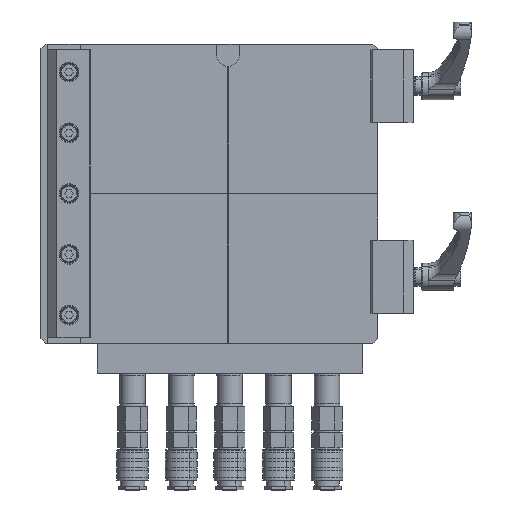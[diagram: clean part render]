
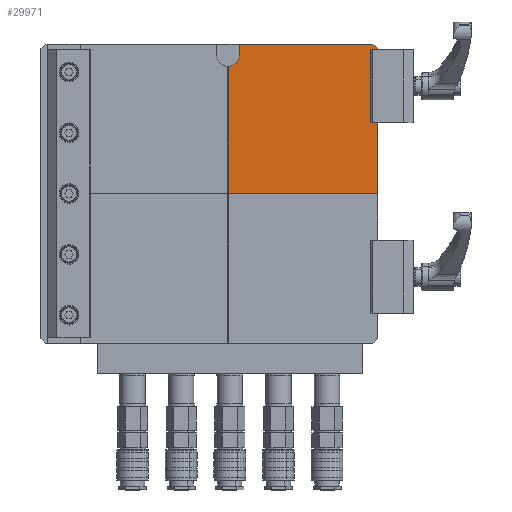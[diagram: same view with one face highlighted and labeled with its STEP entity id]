
A CAD part, top view. The second image highlights one B-rep face of the part: STEP entity #29971.
In plain terms, the highlighted planar face has unit normal (0, 0, 1).
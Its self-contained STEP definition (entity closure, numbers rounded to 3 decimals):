
#3856 = CARTESIAN_POINT ( 'NONE',  ( 68.75, 388.75, 12. ) ) ;
#5664 = CARTESIAN_POINT ( 'NONE',  ( -100., 220., 12. ) ) ;
#6069 = CARTESIAN_POINT ( 'NONE',  ( 80., 380., 12. ) ) ;
#6137 = EDGE_LOOP ( 'NONE', ( #15373, #135960, #18816, #117810, #20992, #133444, #97166 ) ) ;
#8741 = VERTEX_POINT ( 'NONE', #52060 ) ;
#10269 = EDGE_CURVE ( 'NONE', #147749, #55131, #55528, .T. ) ;
#12198 = EDGE_CURVE ( 'NONE', #53716, #147749, #49909, .T. ) ;
#13102 = LINE ( 'NONE', #158831, #118314 ) ;
#15164 = CARTESIAN_POINT ( 'NONE',  ( 6., 380., 12. ) ) ;
#15373 = ORIENTED_EDGE ( 'NONE', *, *, #84571, .F. ) ;
#17327 = CARTESIAN_POINT ( 'NONE',  ( 0.15, 300.15, 12. ) ) ;
#18344 = VERTEX_POINT ( 'NONE', #153059 ) ;
#18816 = ORIENTED_EDGE ( 'NONE', *, *, #12198, .F. ) ;
#20992 = ORIENTED_EDGE ( 'NONE', *, *, #154453, .T. ) ;
#28020 = EDGE_CURVE ( 'NONE', #53716, #8741, #107244, .T. ) ;
#29971 = ADVANCED_FACE ( 'NONE', ( #52309 ), #149742, .T. ) ;
#33211 = DIRECTION ( 'NONE',  ( 1., 0., 0. ) ) ;
#33357 = LINE ( 'NONE', #6069, #68273 ) ;
#33970 = CARTESIAN_POINT ( 'NONE',  ( 0., 374., 12. ) ) ;
#34626 = CARTESIAN_POINT ( 'NONE',  ( 0.15, 368.002, 12. ) ) ;
#40083 = DIRECTION ( 'NONE',  ( -0.707, 0.707, 0. ) ) ;
#43717 = CARTESIAN_POINT ( 'NONE',  ( 6., 374., 12. ) ) ;
#49909 = LINE ( 'NONE', #85339, #63600 ) ;
#52060 = CARTESIAN_POINT ( 'NONE',  ( 80., 300.15, 12. ) ) ;
#52309 = FACE_OUTER_BOUND ( 'NONE', #6137, .T. ) ;
#53716 = VERTEX_POINT ( 'NONE', #17327 ) ;
#53736 = LINE ( 'NONE', #3856, #154688 ) ;
#55131 = VERTEX_POINT ( 'NONE', #43717 ) ;
#55528 = CIRCLE ( 'NONE', #119773, 6. ) ;
#63600 = VECTOR ( 'NONE', #97492, 1000. ) ;
#65126 = LINE ( 'NONE', #15164, #107642 ) ;
#68273 = VECTOR ( 'NONE', #80051, 1000. ) ;
#70922 = VECTOR ( 'NONE', #108030, 1000. ) ;
#74173 = AXIS2_PLACEMENT_3D ( 'NONE', #5664, #114296, #115913 ) ;
#80051 = DIRECTION ( 'NONE',  ( 0., 1., 0. ) ) ;
#84571 = EDGE_CURVE ( 'NONE', #55131, #124255, #65126, .T. ) ;
#85339 = CARTESIAN_POINT ( 'NONE',  ( 0.15, 220., 12. ) ) ;
#90427 = VERTEX_POINT ( 'NONE', #153580 ) ;
#97166 = ORIENTED_EDGE ( 'NONE', *, *, #98839, .T. ) ;
#97492 = DIRECTION ( 'NONE',  ( 0., 1., 0. ) ) ;
#98839 = EDGE_CURVE ( 'NONE', #18344, #124255, #13102, .T. ) ;
#107244 = LINE ( 'NONE', #119321, #70922 ) ;
#107642 = VECTOR ( 'NONE', #135912, 1000. ) ;
#108030 = DIRECTION ( 'NONE',  ( 1., 0., 0. ) ) ;
#109698 = DIRECTION ( 'NONE',  ( -1., 0., 0. ) ) ;
#114296 = DIRECTION ( 'NONE',  ( 0., 0., 1. ) ) ;
#115913 = DIRECTION ( 'NONE',  ( 1., 0., 0. ) ) ;
#117810 = ORIENTED_EDGE ( 'NONE', *, *, #28020, .T. ) ;
#118314 = VECTOR ( 'NONE', #109698, 1000. ) ;
#119321 = CARTESIAN_POINT ( 'NONE',  ( -80., 300.15, 12. ) ) ;
#119773 = AXIS2_PLACEMENT_3D ( 'NONE', #33970, #121695, #33211 ) ;
#120017 = CARTESIAN_POINT ( 'NONE',  ( 6., 380., 12. ) ) ;
#121695 = DIRECTION ( 'NONE',  ( 0., 0., 1. ) ) ;
#124255 = VERTEX_POINT ( 'NONE', #120017 ) ;
#133444 = ORIENTED_EDGE ( 'NONE', *, *, #151399, .T. ) ;
#135912 = DIRECTION ( 'NONE',  ( 0., 1., 0. ) ) ;
#135960 = ORIENTED_EDGE ( 'NONE', *, *, #10269, .F. ) ;
#147749 = VERTEX_POINT ( 'NONE', #34626 ) ;
#149742 = PLANE ( 'NONE',  #74173 ) ;
#151399 = EDGE_CURVE ( 'NONE', #90427, #18344, #53736, .T. ) ;
#153059 = CARTESIAN_POINT ( 'NONE',  ( 77.5, 380., 12. ) ) ;
#153580 = CARTESIAN_POINT ( 'NONE',  ( 80., 377.5, 12. ) ) ;
#154453 = EDGE_CURVE ( 'NONE', #8741, #90427, #33357, .T. ) ;
#154688 = VECTOR ( 'NONE', #40083, 1000. ) ;
#158831 = CARTESIAN_POINT ( 'NONE',  ( -100., 380., 12. ) ) ;
